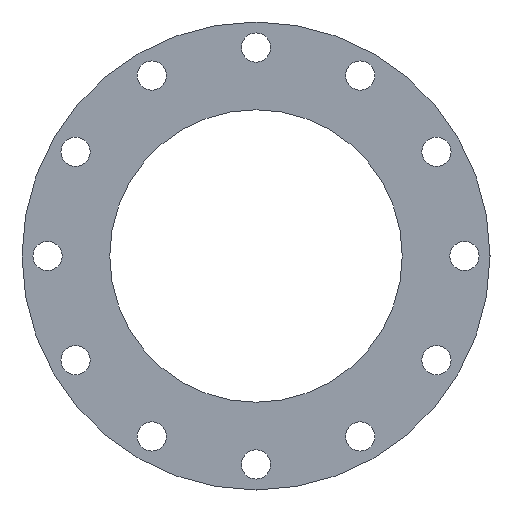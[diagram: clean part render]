
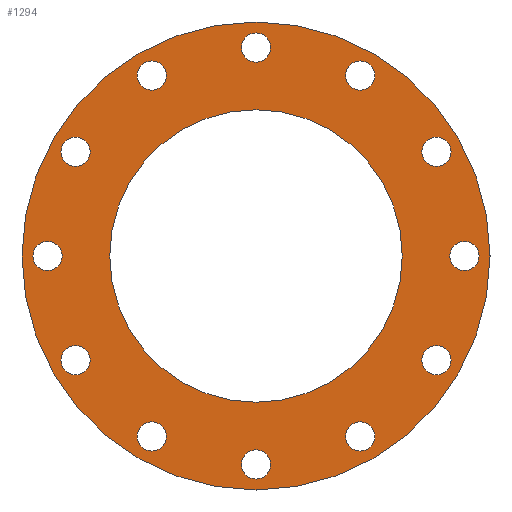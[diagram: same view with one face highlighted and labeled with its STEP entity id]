
A CAD part, left-side view. The second image highlights one B-rep face of the part: STEP entity #1294.
In plain terms, the highlighted planar face has unit normal (-1, 0, 0).
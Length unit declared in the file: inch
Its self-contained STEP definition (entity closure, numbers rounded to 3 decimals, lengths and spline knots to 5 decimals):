
#135=CARTESIAN_POINT('',(-4.,3.8125,6.60344));
#136=VERTEX_POINT('',#135);
#137=CARTESIAN_POINT('',(-4.,3.5625,6.17043));
#138=DIRECTION('',(1.0,0.0,0.0));
#139=DIRECTION('',(0.0,-0.5,-0.866));
#140=AXIS2_PLACEMENT_3D('',#137,#138,#139);
#141=CIRCLE('',#140,0.5);
#142=EDGE_CURVE('',#136,#136,#141,.T.);
#163=CARTESIAN_POINT('',(-4.,6.60344,3.8125));
#164=VERTEX_POINT('',#163);
#165=CARTESIAN_POINT('',(-4.,6.17043,3.5625));
#166=DIRECTION('',(1.,0.0,0.0));
#167=DIRECTION('',(0.0,-0.866,-0.5));
#168=AXIS2_PLACEMENT_3D('',#165,#166,#167);
#169=CIRCLE('',#168,0.5);
#170=EDGE_CURVE('',#164,#164,#169,.T.);
#191=CARTESIAN_POINT('',(-4.,7.625,0.));
#192=VERTEX_POINT('',#191);
#193=CARTESIAN_POINT('',(-4.,7.125,0.));
#194=DIRECTION('',(1.0,0.0,0.0));
#195=DIRECTION('',(0.0,-1.0,0.0));
#196=AXIS2_PLACEMENT_3D('',#193,#194,#195);
#197=CIRCLE('',#196,0.5);
#198=EDGE_CURVE('',#192,#192,#197,.T.);
#219=CARTESIAN_POINT('',(-4.,6.60344,-3.8125));
#220=VERTEX_POINT('',#219);
#221=CARTESIAN_POINT('',(-4.,6.17043,-3.5625));
#222=DIRECTION('',(1.0,0.0,0.0));
#223=DIRECTION('',(0.0,-0.866,0.5));
#224=AXIS2_PLACEMENT_3D('',#221,#222,#223);
#225=CIRCLE('',#224,0.5);
#226=EDGE_CURVE('',#220,#220,#225,.T.);
#247=CARTESIAN_POINT('',(-4.,3.8125,-6.60344));
#248=VERTEX_POINT('',#247);
#249=CARTESIAN_POINT('',(-4.,3.5625,-6.17043));
#250=DIRECTION('',(1.0,0.0,0.0));
#251=DIRECTION('',(0.0,-0.5,0.866));
#252=AXIS2_PLACEMENT_3D('',#249,#250,#251);
#253=CIRCLE('',#252,0.5);
#254=EDGE_CURVE('',#248,#248,#253,.T.);
#275=CARTESIAN_POINT('',(-4.,0.,-7.625));
#276=VERTEX_POINT('',#275);
#277=CARTESIAN_POINT('',(-4.,0.,-7.125));
#278=DIRECTION('',(1.0,0.0,0.0));
#279=DIRECTION('',(0.0,0.0,1.0));
#280=AXIS2_PLACEMENT_3D('',#277,#278,#279);
#281=CIRCLE('',#280,0.5);
#282=EDGE_CURVE('',#276,#276,#281,.T.);
#303=CARTESIAN_POINT('',(-4.,-3.8125,-6.60344));
#304=VERTEX_POINT('',#303);
#305=CARTESIAN_POINT('',(-4.,-3.5625,-6.17043));
#306=DIRECTION('',(1.0,0.0,0.0));
#307=DIRECTION('',(0.0,0.5,0.866));
#308=AXIS2_PLACEMENT_3D('',#305,#306,#307);
#309=CIRCLE('',#308,0.5);
#310=EDGE_CURVE('',#304,#304,#309,.T.);
#331=CARTESIAN_POINT('',(-4.,-6.60344,-3.8125));
#332=VERTEX_POINT('',#331);
#333=CARTESIAN_POINT('',(-4.,-6.17043,-3.5625));
#334=DIRECTION('',(1.0,0.0,0.0));
#335=DIRECTION('',(0.0,0.866,0.5));
#336=AXIS2_PLACEMENT_3D('',#333,#334,#335);
#337=CIRCLE('',#336,0.5);
#338=EDGE_CURVE('',#332,#332,#337,.T.);
#359=CARTESIAN_POINT('',(-4.,-7.625,0.));
#360=VERTEX_POINT('',#359);
#361=CARTESIAN_POINT('',(-4.,-7.125,0.));
#362=DIRECTION('',(1.0,0.0,0.0));
#363=DIRECTION('',(0.0,1.0,0.0));
#364=AXIS2_PLACEMENT_3D('',#361,#362,#363);
#365=CIRCLE('',#364,0.5);
#366=EDGE_CURVE('',#360,#360,#365,.T.);
#387=CARTESIAN_POINT('',(-4.,-6.60344,3.8125));
#388=VERTEX_POINT('',#387);
#389=CARTESIAN_POINT('',(-4.,-6.17043,3.5625));
#390=DIRECTION('',(1.,0.0,0.0));
#391=DIRECTION('',(0.0,0.866,-0.5));
#392=AXIS2_PLACEMENT_3D('',#389,#390,#391);
#393=CIRCLE('',#392,0.5);
#394=EDGE_CURVE('',#388,#388,#393,.T.);
#415=CARTESIAN_POINT('',(-4.,-3.8125,6.60344));
#416=VERTEX_POINT('',#415);
#417=CARTESIAN_POINT('',(-4.,-3.5625,6.17043));
#418=DIRECTION('',(1.,0.0,0.0));
#419=DIRECTION('',(0.0,0.5,-0.866));
#420=AXIS2_PLACEMENT_3D('',#417,#418,#419);
#421=CIRCLE('',#420,0.5);
#422=EDGE_CURVE('',#416,#416,#421,.T.);
#443=CARTESIAN_POINT('',(-4.,0.,7.625));
#444=VERTEX_POINT('',#443);
#445=CARTESIAN_POINT('',(-4.,0.0,7.125));
#446=DIRECTION('',(1.0,0.0,0.0));
#447=DIRECTION('',(0.0,0.0,-1.0));
#448=AXIS2_PLACEMENT_3D('',#445,#446,#447);
#449=CIRCLE('',#448,0.5);
#450=EDGE_CURVE('',#444,#444,#449,.T.);
#807=CARTESIAN_POINT('',(-4.,8.,0.0));
#808=VERTEX_POINT('',#807);
#809=CARTESIAN_POINT('',(-4.,0.0,0.0));
#810=DIRECTION('',(1.0,0.0,0.0));
#811=DIRECTION('',(0.0,1.0,0.0));
#812=AXIS2_PLACEMENT_3D('',#809,#810,#811);
#813=CIRCLE('',#812,8.);
#814=EDGE_CURVE('',#808,#808,#813,.T.);
#1232=CARTESIAN_POINT('',(-4.0,5.0,0.0));
#1233=VERTEX_POINT('',#1232);
#1234=CARTESIAN_POINT('',(-4.0,0.0,0.0));
#1235=DIRECTION('',(1.0,0.0,0.0));
#1236=DIRECTION('',(0.0,1.0,0.0));
#1237=AXIS2_PLACEMENT_3D('',#1234,#1235,#1236);
#1238=CIRCLE('',#1237,5.0);
#1239=EDGE_CURVE('',#1233,#1233,#1238,.T.);
#1247=CARTESIAN_POINT('',(-4.,6.5,0.0));
#1248=DIRECTION('',(-1.0,0.0,0.0));
#1249=DIRECTION('',(0.0,0.0,1.0));
#1250=AXIS2_PLACEMENT_3D('',#1247,#1248,#1249);
#1251=PLANE('',#1250);
#1252=ORIENTED_EDGE('',*,*,#814,.F.);
#1253=EDGE_LOOP('',(#1252));
#1254=FACE_OUTER_BOUND('',#1253,.T.);
#1255=ORIENTED_EDGE('',*,*,#142,.T.);
#1256=EDGE_LOOP('',(#1255));
#1257=FACE_BOUND('',#1256,.T.);
#1258=ORIENTED_EDGE('',*,*,#170,.T.);
#1259=EDGE_LOOP('',(#1258));
#1260=FACE_BOUND('',#1259,.T.);
#1261=ORIENTED_EDGE('',*,*,#198,.T.);
#1262=EDGE_LOOP('',(#1261));
#1263=FACE_BOUND('',#1262,.T.);
#1264=ORIENTED_EDGE('',*,*,#226,.T.);
#1265=EDGE_LOOP('',(#1264));
#1266=FACE_BOUND('',#1265,.T.);
#1267=ORIENTED_EDGE('',*,*,#254,.T.);
#1268=EDGE_LOOP('',(#1267));
#1269=FACE_BOUND('',#1268,.T.);
#1270=ORIENTED_EDGE('',*,*,#282,.T.);
#1271=EDGE_LOOP('',(#1270));
#1272=FACE_BOUND('',#1271,.T.);
#1273=ORIENTED_EDGE('',*,*,#310,.T.);
#1274=EDGE_LOOP('',(#1273));
#1275=FACE_BOUND('',#1274,.T.);
#1276=ORIENTED_EDGE('',*,*,#338,.T.);
#1277=EDGE_LOOP('',(#1276));
#1278=FACE_BOUND('',#1277,.T.);
#1279=ORIENTED_EDGE('',*,*,#366,.T.);
#1280=EDGE_LOOP('',(#1279));
#1281=FACE_BOUND('',#1280,.T.);
#1282=ORIENTED_EDGE('',*,*,#394,.T.);
#1283=EDGE_LOOP('',(#1282));
#1284=FACE_BOUND('',#1283,.T.);
#1285=ORIENTED_EDGE('',*,*,#422,.T.);
#1286=EDGE_LOOP('',(#1285));
#1287=FACE_BOUND('',#1286,.T.);
#1288=ORIENTED_EDGE('',*,*,#450,.T.);
#1289=EDGE_LOOP('',(#1288));
#1290=FACE_BOUND('',#1289,.T.);
#1291=ORIENTED_EDGE('',*,*,#1239,.T.);
#1292=EDGE_LOOP('',(#1291));
#1293=FACE_BOUND('',#1292,.T.);
#1294=ADVANCED_FACE('',(#1254,#1257,#1260,#1263,#1266,#1269,#1272,#1275,#1278,#1281,#1284,#1287,#1290,#1293),#1251,.T.);
